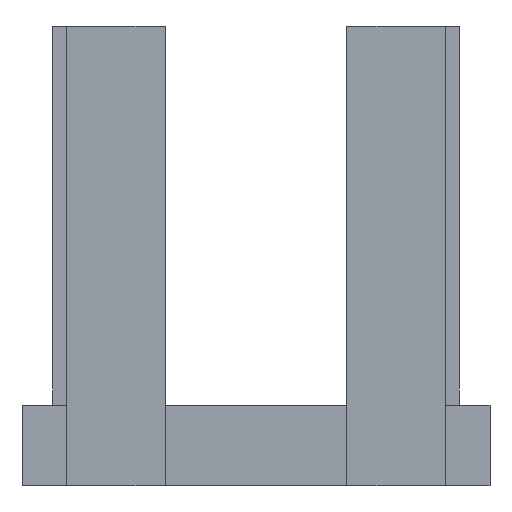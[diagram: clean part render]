
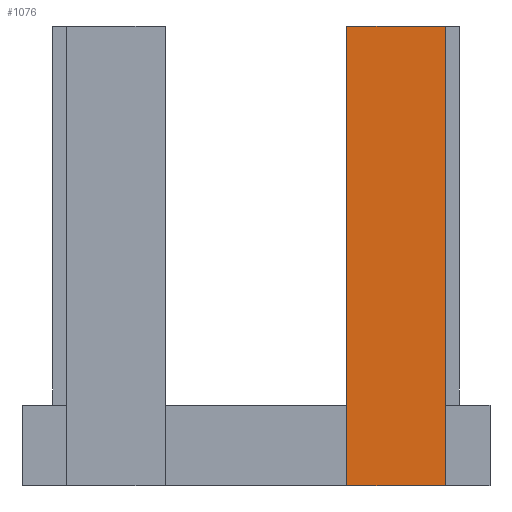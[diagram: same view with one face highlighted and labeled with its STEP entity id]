
A CAD part, left-side view. The second image highlights one B-rep face of the part: STEP entity #1076.
In plain terms, the highlighted planar face has unit normal (-1, 0, 0).
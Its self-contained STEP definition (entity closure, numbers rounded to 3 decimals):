
#100 = PLANE('',#101);
#101 = AXIS2_PLACEMENT_3D('',#102,#103,#104);
#102 = CARTESIAN_POINT('',(-21.25,-42.,93.5));
#103 = DIRECTION('',(0.,0.,1.));
#104 = DIRECTION('',(1.,0.,0.));
#125 = PLANE('',#126);
#126 = AXIS2_PLACEMENT_3D('',#127,#128,#129);
#127 = CARTESIAN_POINT('',(-29.25,-34.,93.5));
#128 = DIRECTION('',(0.,1.,0.));
#129 = DIRECTION('',(0.,0.,1.));
#217 = VERTEX_POINT('',#218);
#218 = CARTESIAN_POINT('',(-29.25,-34.,93.5));
#239 = EDGE_CURVE('',#240,#217,#242,.T.);
#240 = VERTEX_POINT('',#241);
#241 = CARTESIAN_POINT('',(-29.25,-34.,176.));
#242 = SURFACE_CURVE('',#243,(#247,#254),.PCURVE_S1.);
#243 = LINE('',#244,#245);
#244 = CARTESIAN_POINT('',(-29.25,-34.,176.));
#245 = VECTOR('',#246,1.);
#246 = DIRECTION('',(0.,0.,-1.));
#247 = PCURVE('',#125,#248);
#248 = DEFINITIONAL_REPRESENTATION('',(#249),#253);
#249 = LINE('',#250,#251);
#250 = CARTESIAN_POINT('',(82.5,0.));
#251 = VECTOR('',#252,1.);
#252 = DIRECTION('',(-1.,0.));
#253 = ( GEOMETRIC_REPRESENTATION_CONTEXT(2) 
PARAMETRIC_REPRESENTATION_CONTEXT() REPRESENTATION_CONTEXT('2D SPACE',''
  ) );
#254 = PCURVE('',#255,#260);
#255 = PLANE('',#256);
#256 = AXIS2_PLACEMENT_3D('',#257,#258,#259);
#257 = CARTESIAN_POINT('',(-29.25,-34.,93.5));
#258 = DIRECTION('',(1.,0.,0.));
#259 = DIRECTION('',(0.,0.,1.));
#260 = DEFINITIONAL_REPRESENTATION('',(#261),#265);
#261 = LINE('',#262,#263);
#262 = CARTESIAN_POINT('',(82.5,0.));
#263 = VECTOR('',#264,1.);
#264 = DIRECTION('',(-1.,0.));
#265 = ( GEOMETRIC_REPRESENTATION_CONTEXT(2) 
PARAMETRIC_REPRESENTATION_CONTEXT() REPRESENTATION_CONTEXT('2D SPACE',''
  ) );
#283 = PLANE('',#284);
#284 = AXIS2_PLACEMENT_3D('',#285,#286,#287);
#285 = CARTESIAN_POINT('',(-29.25,-34.,176.));
#286 = DIRECTION('',(0.,0.,1.));
#287 = DIRECTION('',(1.,0.,0.));
#575 = VERTEX_POINT('',#576);
#576 = CARTESIAN_POINT('',(-29.25,-16.3,93.5));
#590 = PLANE('',#591);
#591 = AXIS2_PLACEMENT_3D('',#592,#593,#594);
#592 = CARTESIAN_POINT('',(-29.25,-16.3,93.5));
#593 = DIRECTION('',(0.,1.,0.));
#594 = DIRECTION('',(0.,0.,1.));
#602 = EDGE_CURVE('',#217,#575,#603,.T.);
#603 = SURFACE_CURVE('',#604,(#608,#615),.PCURVE_S1.);
#604 = LINE('',#605,#606);
#605 = CARTESIAN_POINT('',(-29.25,-34.,93.5));
#606 = VECTOR('',#607,1.);
#607 = DIRECTION('',(0.,1.,0.));
#608 = PCURVE('',#100,#609);
#609 = DEFINITIONAL_REPRESENTATION('',(#610),#614);
#610 = LINE('',#611,#612);
#611 = CARTESIAN_POINT('',(-8.,8.));
#612 = VECTOR('',#613,1.);
#613 = DIRECTION('',(0.,1.));
#614 = ( GEOMETRIC_REPRESENTATION_CONTEXT(2) 
PARAMETRIC_REPRESENTATION_CONTEXT() REPRESENTATION_CONTEXT('2D SPACE',''
  ) );
#615 = PCURVE('',#255,#616);
#616 = DEFINITIONAL_REPRESENTATION('',(#617),#621);
#617 = LINE('',#618,#619);
#618 = CARTESIAN_POINT('',(0.,0.));
#619 = VECTOR('',#620,1.);
#620 = DIRECTION('',(0.,-1.));
#621 = ( GEOMETRIC_REPRESENTATION_CONTEXT(2) 
PARAMETRIC_REPRESENTATION_CONTEXT() REPRESENTATION_CONTEXT('2D SPACE',''
  ) );
#1076 = ADVANCED_FACE('',(#1077),#255,.F.);
#1077 = FACE_BOUND('',#1078,.F.);
#1078 = EDGE_LOOP('',(#1079,#1080,#1103,#1124));
#1079 = ORIENTED_EDGE('',*,*,#602,.T.);
#1080 = ORIENTED_EDGE('',*,*,#1081,.F.);
#1081 = EDGE_CURVE('',#1082,#575,#1084,.T.);
#1082 = VERTEX_POINT('',#1083);
#1083 = CARTESIAN_POINT('',(-29.25,-16.3,176.));
#1084 = SURFACE_CURVE('',#1085,(#1089,#1096),.PCURVE_S1.);
#1085 = LINE('',#1086,#1087);
#1086 = CARTESIAN_POINT('',(-29.25,-16.3,176.));
#1087 = VECTOR('',#1088,1.);
#1088 = DIRECTION('',(0.,0.,-1.));
#1089 = PCURVE('',#255,#1090);
#1090 = DEFINITIONAL_REPRESENTATION('',(#1091),#1095);
#1091 = LINE('',#1092,#1093);
#1092 = CARTESIAN_POINT('',(82.5,-17.7));
#1093 = VECTOR('',#1094,1.);
#1094 = DIRECTION('',(-1.,0.));
#1095 = ( GEOMETRIC_REPRESENTATION_CONTEXT(2) 
PARAMETRIC_REPRESENTATION_CONTEXT() REPRESENTATION_CONTEXT('2D SPACE',''
  ) );
#1096 = PCURVE('',#590,#1097);
#1097 = DEFINITIONAL_REPRESENTATION('',(#1098),#1102);
#1098 = LINE('',#1099,#1100);
#1099 = CARTESIAN_POINT('',(82.5,0.));
#1100 = VECTOR('',#1101,1.);
#1101 = DIRECTION('',(-1.,0.));
#1102 = ( GEOMETRIC_REPRESENTATION_CONTEXT(2) 
PARAMETRIC_REPRESENTATION_CONTEXT() REPRESENTATION_CONTEXT('2D SPACE',''
  ) );
#1103 = ORIENTED_EDGE('',*,*,#1104,.F.);
#1104 = EDGE_CURVE('',#240,#1082,#1105,.T.);
#1105 = SURFACE_CURVE('',#1106,(#1110,#1117),.PCURVE_S1.);
#1106 = LINE('',#1107,#1108);
#1107 = CARTESIAN_POINT('',(-29.25,-34.,176.));
#1108 = VECTOR('',#1109,1.);
#1109 = DIRECTION('',(0.,1.,0.));
#1110 = PCURVE('',#255,#1111);
#1111 = DEFINITIONAL_REPRESENTATION('',(#1112),#1116);
#1112 = LINE('',#1113,#1114);
#1113 = CARTESIAN_POINT('',(82.5,0.));
#1114 = VECTOR('',#1115,1.);
#1115 = DIRECTION('',(0.,-1.));
#1116 = ( GEOMETRIC_REPRESENTATION_CONTEXT(2) 
PARAMETRIC_REPRESENTATION_CONTEXT() REPRESENTATION_CONTEXT('2D SPACE',''
  ) );
#1117 = PCURVE('',#283,#1118);
#1118 = DEFINITIONAL_REPRESENTATION('',(#1119),#1123);
#1119 = LINE('',#1120,#1121);
#1120 = CARTESIAN_POINT('',(0.,0.));
#1121 = VECTOR('',#1122,1.);
#1122 = DIRECTION('',(0.,1.));
#1123 = ( GEOMETRIC_REPRESENTATION_CONTEXT(2) 
PARAMETRIC_REPRESENTATION_CONTEXT() REPRESENTATION_CONTEXT('2D SPACE',''
  ) );
#1124 = ORIENTED_EDGE('',*,*,#239,.T.);
